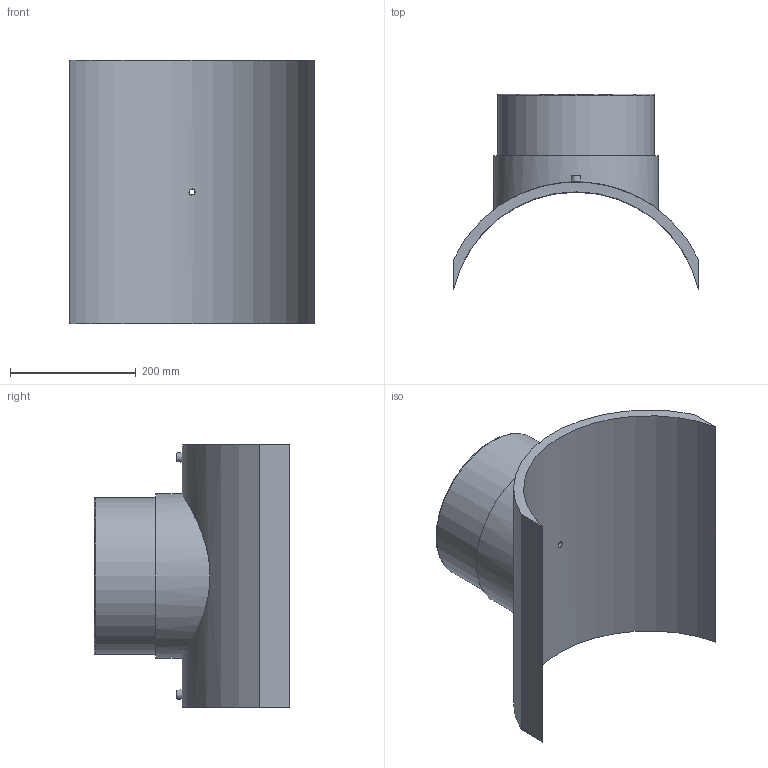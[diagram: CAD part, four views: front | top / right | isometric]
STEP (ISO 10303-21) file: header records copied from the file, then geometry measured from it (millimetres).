
FILE_DESCRIPTION(/* description */ ('PLASSON BRANCH SADDLE 400x250'),/* implementation_level */ '2;1');
FILE_NAME(/* name */ 'C:\Dropbox\KIMPROJECTS-Inventor 2019\99-16-3568-Processing\ElectroFusion Fittings\495803\stp\495803400250T.stp',/* time_stamp */ '2024-04-04T11:48:34+02:00',/* author */ ('KIM'),/* organization */ (''),/* preprocessor_version */ 'ST-DEVELOPER v17.2',/* originating_system */ 'Autodesk Inventor 2019',/* authorisation */ '');
FILE_SCHEMA (('AUTOMOTIVE_DESIGN { 1 0 10303 214 3 1 1 }'));
Length unit declared in the file: millimetre
Products named in the file (1): 495803400250T
Bounding box: 390 x 311.56 x 420 mm (x, y, z)
Volume: 6486578.1 mm3; surface area: 717239.2 mm2
Topology: 1 solids, 1 shells, 29 faces, 60 edges, 43 vertices
Faces by surface type: plane 13, cylinder 12, torus 2, cone 2
Full cylindrical faces by diameter (mm): 4 x2, 9.6 x1, 10 x2, 16 x1, 200 x1, 250 x1, 262.5 x1
Entity records: 1094 total; most frequent: CARTESIAN_POINT 408, DIRECTION 139, ORIENTED_EDGE 120, EDGE_CURVE 60, AXIS2_PLACEMENT_3D 60, VERTEX_POINT 43, EDGE_LOOP 41, CIRCLE 30
